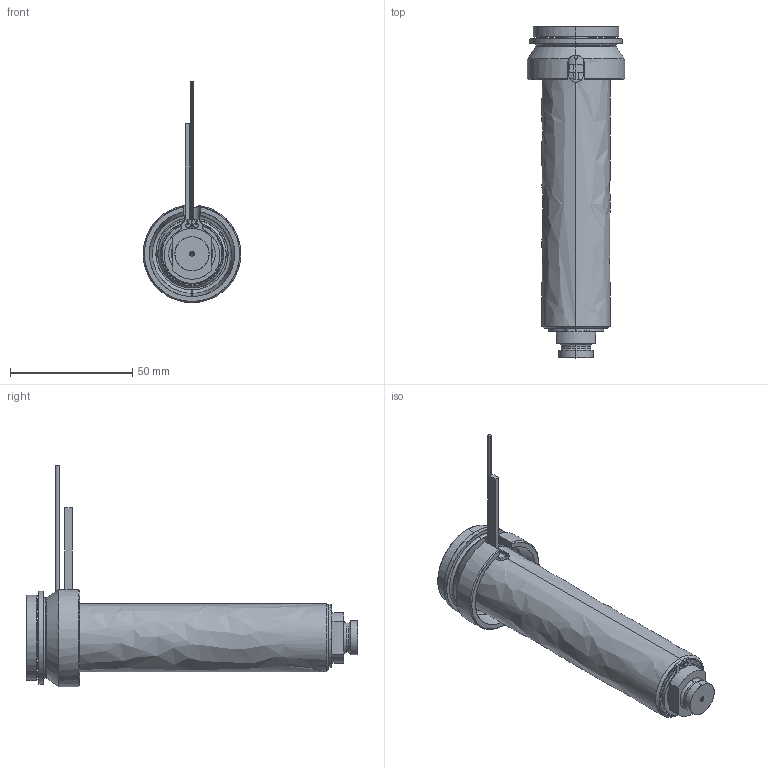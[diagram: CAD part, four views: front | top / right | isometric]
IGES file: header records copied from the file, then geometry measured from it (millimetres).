
Start section: SolidWorks IGES file using analytic representation for surfaces
Global section: file name: C:\Documents and Settings\ws-20\Desktop\TEM\UGEP4103-S-A-0 [Øf-0.88 P-0 ØC-10].IGS; native system: SolidWorks 2012; preprocessor: SolidWorks 2012; author: ws-20; date: 120426.085929; units: millimetre
Bounding box: 40 x 136 x 90.65 mm (x, y, z)
Surface area: 41629.5 mm2 (no closed solid volume)
Topology: 0 solids, 0 shells, 113 faces, 1919 edges, 1919 vertices
Faces by surface type: revolution 70, bspline 43
